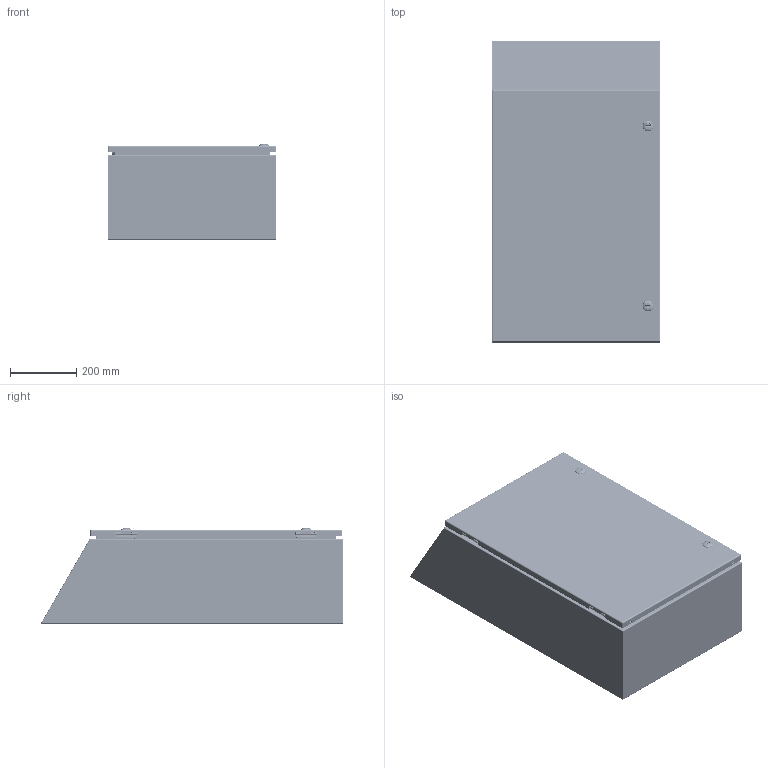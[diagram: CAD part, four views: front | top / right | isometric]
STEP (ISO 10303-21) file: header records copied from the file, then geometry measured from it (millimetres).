
FILE_DESCRIPTION(/* description */ ('5412ESCS 30" x 20" x 10" Assembly'),/* implementation_level */ '2;1');
FILE_NAME(/* name */ 'C:\Vault_Workspace\Inventor_Dwg\BoxCad\Result\5412ESCS302010\e-mail\3D\5412ESCS302010.stp',/* time_stamp */ '2022-03-09T18:18:44-05:00',/* author */ ('BoxCad'),/* organization */ (''),/* preprocessor_version */ 'ST-DEVELOPER v18.1',/* originating_system */ 'Autodesk Inventor 2020',/* authorisation */ '');
FILE_SCHEMA (('AUTOMOTIVE_DESIGN { 1 0 10303 214 3 1 1 }'));
Products named in the file (43): 5412ESCS302010; 5412ESCS302010B; 5412ESCS302010B-P; STK-Q-16005; STUD_M6 x 16mm; STK-Q-07610; 881SP3020G; 881SP3020G-P; STK-Q-07310; 5412ESCS302010C; 5412ESCS302010C-P; 5412ESCS302010G; STK-K-09800; STK-K-09800-2; STK-Q-33014; STK-Q-90398; STK-Q-40095; STK-Q-63410; STK-Q-16055; STK-Q-46020-30; STK-Q-07220-1; STK-Q-07220-2; STK-Q-07220-3; STK-Q-07220-4; STK-Q-07220-A; STK-Q-07220-B; STK-P-02400S; STK-A-880SCQ4-SL-1; STK-A-880SCQ4-SL-2; STK-Q-78110; STK-Q-78120; STK-Q-78145; STK-Q-03200; STK-Q-78125; STK-Q-78141; STK-Q-90390; STK-Q-78160; STK-Q-04050-07; STK-Q-04050-07-2; STK-Q-04050-07-P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
Assembly tree (80 placements, depth 4):
  5412ESCS302010
    5412ESCS302010B
      5412ESCS302010B-P
      STK-Q-16005  x4
      STK-P-02400S
      STUD_M6 x 16mm
    STK-Q-07610  x4
    881SP3020G
      881SP3020G-P
    STK-Q-07310  x4
    5412ESCS302010C
      5412ESCS302010C-P
      5412ESCS302010G
      STK-K-09800
        STK-Q-33014
        STK-Q-90398
        STK-Q-40095  x2
        STK-Q-63410  x2
      STK-K-09800-2
        STK-Q-33014
        STK-Q-90398
        STK-Q-40095  x2
        STK-Q-63410  x2
      STK-Q-16055  x4
      STK-Q-46020-30  x2
      STK-Q-07220-1
        STK-Q-07220-A
        STK-Q-07220-B
      STK-Q-07220-2
        STK-Q-07220-A
        STK-Q-07220-B
      STK-Q-07220-3
        STK-Q-07220-A
        STK-Q-07220-B
      STK-Q-07220-4
        STK-Q-07220-A
        STK-Q-07220-B
      STK-P-02400S
      STK-A-880SCQ4-SL-1
        STK-Q-78110
        STK-Q-78120
        STK-Q-78145
        STK-Q-03200
        STK-Q-78125
        STK-Q-78141
        STK-Q-90390
        STK-Q-78160
      STK-A-880SCQ4-SL-2
        STK-Q-78110
        STK-Q-78120
        STK-Q-78145
        STK-Q-03200
        STK-Q-78125
        STK-Q-78141
        STK-Q-90390
        STK-Q-78160
    STK-Q-04050-07
      STK-Q-04050-07-P
      STK-Q-04050-N
    STK-Q-04050-07-2
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Bounding box: 508.07 x 907.08 x 287.15 mm (x, y, z)
Volume: 3458843.2 mm3; surface area: 4357089.3 mm2
Topology: 63 solids, 63 shells, 9819 faces, 26364 edges, 16752 vertices
Faces by surface type: bspline 3404, plane 2887, cylinder 2509, torus 655, sphere 188, cone 176
Full cylindrical faces by diameter (mm): 0 x1, 0.75 x9, 0.762 x9, 1 x8, 1.1 x8, 3.2 x4, 4.191 x52, 4.5 x4, 4.521 x8, 4.75 x1, 4.85 x16, 4.95 x4, 5 x4, 5.1 x36, 5.6 x2, 5.9 x29, 6.015 x52, 6.65 x4, 6.8 x4, 6.85 x16, 7.112 x4, 7.3 x2, 7.366 x4, 7.9 x4, 8 x12, 8.382 x2, 9.5 x4, 9.6 x2, 9.906 x4, 10 x2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
Entity records: 159501 total; most frequent: CARTESIAN_POINT 64682, ORIENTED_EDGE 21614, DIRECTION 15970, EDGE_CURVE 10807, VERTEX_POINT 6854, AXIS2_PLACEMENT_3D 5856, EDGE_LOOP 4431, LINE 4258
